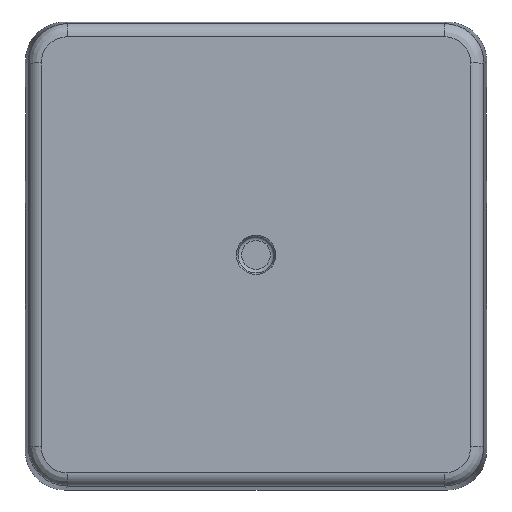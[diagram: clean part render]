
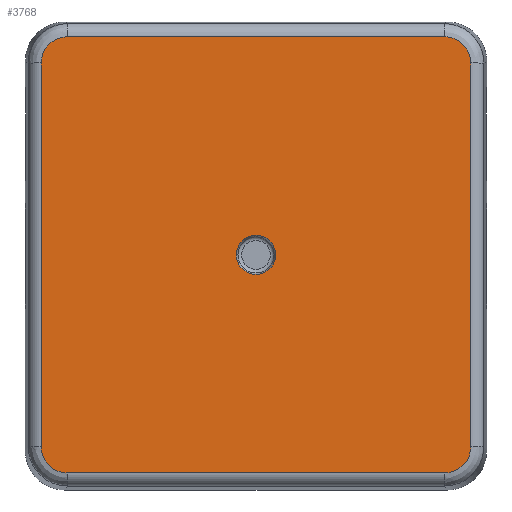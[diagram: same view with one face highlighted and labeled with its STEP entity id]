
A CAD part, top view. The second image highlights one B-rep face of the part: STEP entity #3768.
In plain terms, the highlighted planar face has unit normal (0, 0, 1) as drawn and (0, 0, -1) by its records, which use the part's own axes.
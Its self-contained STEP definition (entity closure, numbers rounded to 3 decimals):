
#2183=CIRCLE('',#27424,1.5);
#2815=FACE_BOUND('',#7527,.T.);
#2816=FACE_BOUND('',#7528,.T.);
#3051=ELLIPSE('',#27420,2.,2.);
#3052=ELLIPSE('',#27421,2.,2.);
#3053=ELLIPSE('',#27422,2.,2.);
#3054=ELLIPSE('',#27423,2.,2.);
#3768=ADVANCED_FACE('',(#2815,#2816),#5220,.T.);
#5220=PLANE('',#27425);
#7527=EDGE_LOOP('',(#9635,#9636,#9637,#9638,#9639,#9640,#9641,#9642));
#7528=EDGE_LOOP('',(#9643));
#9635=ORIENTED_EDGE('',*,*,#18945,.T.);
#9636=ORIENTED_EDGE('',*,*,#18946,.T.);
#9637=ORIENTED_EDGE('',*,*,#18776,.T.);
#9638=ORIENTED_EDGE('',*,*,#18947,.T.);
#9639=ORIENTED_EDGE('',*,*,#18948,.T.);
#9640=ORIENTED_EDGE('',*,*,#18949,.T.);
#9641=ORIENTED_EDGE('',*,*,#18950,.T.);
#9642=ORIENTED_EDGE('',*,*,#18951,.T.);
#9643=ORIENTED_EDGE('',*,*,#18952,.T.);
#16519=VERTEX_POINT('',#37195);
#16520=VERTEX_POINT('',#37196);
#16631=VERTEX_POINT('',#37645);
#16632=VERTEX_POINT('',#37646);
#16633=VERTEX_POINT('',#37649);
#16634=VERTEX_POINT('',#37651);
#16635=VERTEX_POINT('',#37653);
#16636=VERTEX_POINT('',#37655);
#16637=VERTEX_POINT('',#37658);
#18776=EDGE_CURVE('',#16519,#16520,#22308,.T.);
#18945=EDGE_CURVE('',#16631,#16632,#22444,.T.);
#18946=EDGE_CURVE('',#16632,#16519,#3051,.T.);
#18947=EDGE_CURVE('',#16520,#16633,#3052,.T.);
#18948=EDGE_CURVE('',#16633,#16634,#22445,.T.);
#18949=EDGE_CURVE('',#16634,#16635,#3053,.T.);
#18950=EDGE_CURVE('',#16635,#16636,#22446,.T.);
#18951=EDGE_CURVE('',#16636,#16631,#3054,.T.);
#18952=EDGE_CURVE('',#16637,#16637,#2183,.T.);
#22308=LINE('',#37194,#24943);
#22444=LINE('',#37644,#25079);
#22445=LINE('',#37650,#25080);
#22446=LINE('',#37654,#25081);
#24943=VECTOR('',#29898,1.);
#25079=VECTOR('',#30112,1.);
#25080=VECTOR('',#30117,1.);
#25081=VECTOR('',#30120,1.);
#27420=AXIS2_PLACEMENT_3D('',#37647,#30113,#30114);
#27421=AXIS2_PLACEMENT_3D('',#37648,#30115,#30116);
#27422=AXIS2_PLACEMENT_3D('',#37652,#30118,#30119);
#27423=AXIS2_PLACEMENT_3D('',#37656,#30121,#30122);
#27424=AXIS2_PLACEMENT_3D('',#37657,#30123,#30124);
#27425=AXIS2_PLACEMENT_3D('',#37659,#30125,#30126);
#29898=DIRECTION('',(0.,1.,0.));
#30112=DIRECTION('',(-1.,0.,0.));
#30113=DIRECTION('',(0.,0.,-1.));
#30114=DIRECTION('',(-0.707,-0.707,0.));
#30115=DIRECTION('',(0.,0.,-1.));
#30116=DIRECTION('',(-0.707,0.707,0.));
#30117=DIRECTION('',(1.,0.,0.));
#30118=DIRECTION('',(0.,0.,-1.));
#30119=DIRECTION('',(-0.707,-0.707,0.));
#30120=DIRECTION('',(0.,-1.,0.));
#30121=DIRECTION('',(0.,0.,-1.));
#30122=DIRECTION('',(-0.707,0.707,0.));
#30123=DIRECTION('',(0.,0.,1.));
#30124=DIRECTION('',(1.,0.,0.));
#30125=DIRECTION('',(0.,0.,-1.));
#30126=DIRECTION('',(-1.,0.,0.));
#37194=CARTESIAN_POINT('',(-16.385,17.85,-50.3));
#37195=CARTESIAN_POINT('',(-16.385,-14.635,-50.3));
#37196=CARTESIAN_POINT('',(-16.385,14.635,-50.3));
#37644=CARTESIAN_POINT('',(17.85,-16.635,-50.3));
#37645=CARTESIAN_POINT('',(14.385,-16.635,-50.3));
#37646=CARTESIAN_POINT('',(-14.385,-16.635,-50.3));
#37647=CARTESIAN_POINT('',(-14.385,-14.635,-50.3));
#37648=CARTESIAN_POINT('',(-14.385,14.635,-50.3));
#37649=CARTESIAN_POINT('',(-14.385,16.635,-50.3));
#37650=CARTESIAN_POINT('',(17.85,16.635,-50.3));
#37651=CARTESIAN_POINT('',(14.385,16.635,-50.3));
#37652=CARTESIAN_POINT('',(14.385,14.635,-50.3));
#37653=CARTESIAN_POINT('',(16.385,14.635,-50.3));
#37654=CARTESIAN_POINT('',(16.385,17.85,-50.3));
#37655=CARTESIAN_POINT('',(16.385,-14.635,-50.3));
#37656=CARTESIAN_POINT('',(14.385,-14.635,-50.3));
#37657=CARTESIAN_POINT('',(0.,0.,-50.3));
#37658=CARTESIAN_POINT('',(1.5,0.,-50.3));
#37659=CARTESIAN_POINT('',(17.85,17.85,-50.3));
